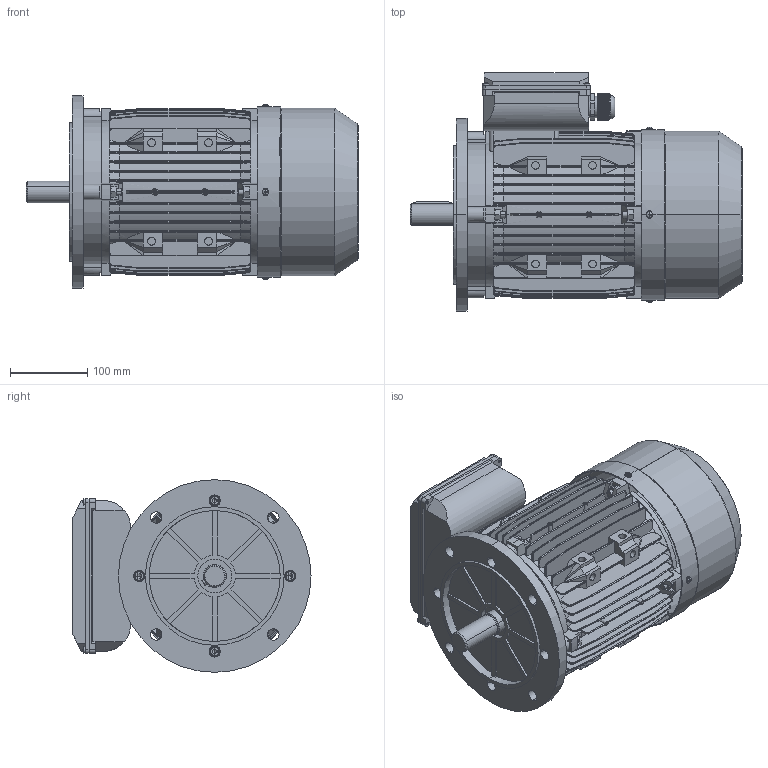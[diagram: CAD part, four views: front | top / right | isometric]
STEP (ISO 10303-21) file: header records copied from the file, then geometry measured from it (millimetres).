
FILE_DESCRIPTION (( 'STEP AP214' ), '1' );
FILE_NAME ('BDM0370.11E205.11.step', '2020-04-23T12:50:31', ( '' ), ( '' ), 'SwSTEP 2.0', 'SolidWorks 2019', '' );
FILE_SCHEMA (( 'AUTOMOTIVE_DESIGN' ));
Length unit declared in the file: millimetre
Products named in the file (1): BDM0370.11E205.11
Bounding box: 431 x 309 x 250 mm (x, y, z)
Volume: 2573698.9 mm3; surface area: 1362460 mm2
Topology: 33 solids, 33 shells, 4208 faces, 11025 edges, 6961 vertices
Faces by surface type: plane 2351, cylinder 1221, bspline 282, cone 217, torus 83, sphere 54
Entity records: 146149 total; most frequent: CARTESIAN_POINT 44659, ORIENTED_EDGE 21970, DIRECTION 19689, EDGE_CURVE 10985, VERTEX_POINT 6961, LINE 6811, VECTOR 6811, AXIS2_PLACEMENT_3D 6439
